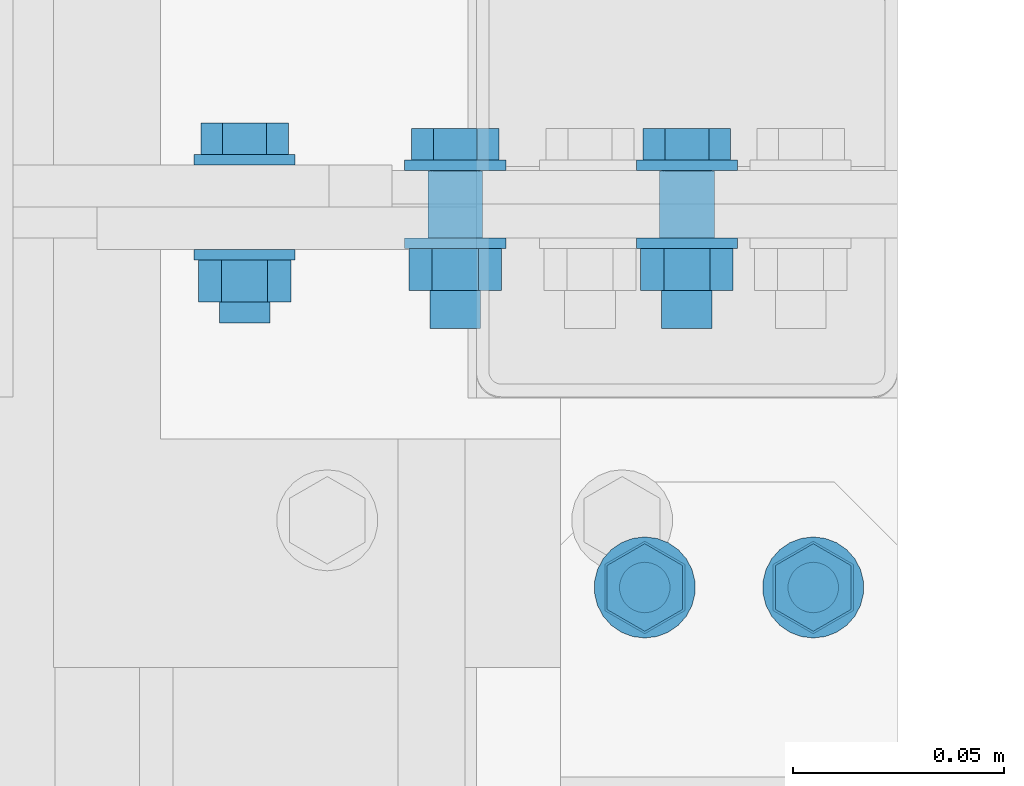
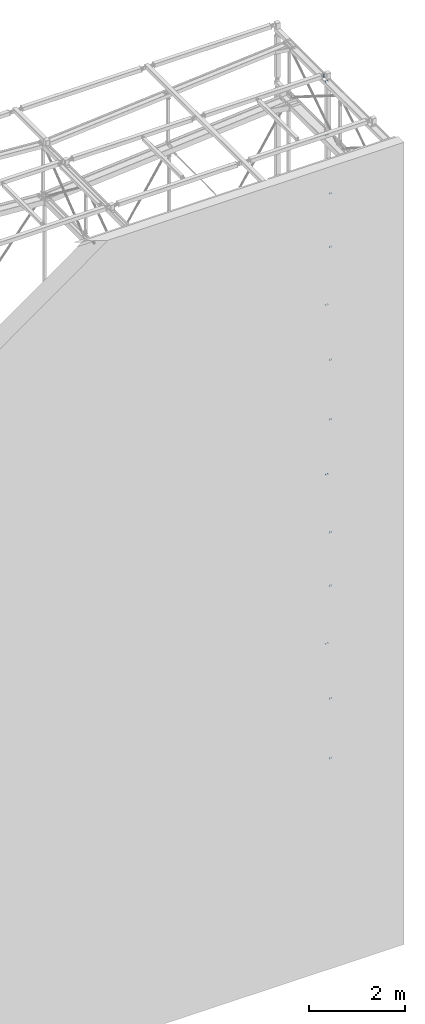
# One storey, part 261 of 271: 14 mechanical fasteners, 14 elements without a shape of their own.
"""IFC2X3 building model written with IfcOpenShell, lengths in millimetres."""

from ifc_helpers import new_model, si_unit, frame, frame_2d, origin_with_axes, origin_2d_with_axis, place, context, subcontext, project, spatial, polyline, circle_curve, parameter, trimmed, segment, composite_curve, circle, outline, extrude, source, transform, mapped, material, type_object, element, aggregate, save


model = new_model("IFC2X3")

# Units and contexts
model_context = context("Model", 3, precision=1e-05, world=origin_with_axes())
body_context = subcontext(model_context, "Body", "Model", "MODEL_VIEW")
ifc_project = project(units=[si_unit("LENGTHUNIT", "METRE", prefix="MILLI"), si_unit("AREAUNIT", "SQUARE_METRE"), si_unit("VOLUMEUNIT", "CUBIC_METRE"), si_unit("MASSUNIT", "GRAM", prefix="KILO"), si_unit("TIMEUNIT", "SECOND"), si_unit("PLANEANGLEUNIT", "RADIAN"), si_unit("SOLIDANGLEUNIT", "STERADIAN"), si_unit("THERMODYNAMICTEMPERATUREUNIT", "DEGREE_CELSIUS"), si_unit("LUMINOUSINTENSITYUNIT", "LUMEN")], contexts=[model_context])

# Site, building, storey
site_placement = place(None, origin_with_axes())
site = spatial("IfcSite", under=ifc_project, at=site_placement, Name="Undefined", CompositionType="ELEMENT")
building_placement = place(site_placement, origin_with_axes())
building = spatial("IfcBuilding", under=site, at=building_placement, Name="Undefined", CompositionType="ELEMENT")
storey_placement = place(building_placement, origin_with_axes())
storey = spatial("IfcBuildingStorey", under=building, at=storey_placement, Name="Undefined", CompositionType="ELEMENT", Elevation=0.0)

# Assembly, mechanical fastener
assembly_1_placement = place(storey_placement, origin_with_axes())
assembly_1 = element("IfcElementAssembly", 1, at=assembly_1_placement, inside=storey, AssemblyPlace="NOTDEFINED", PredefinedType="RIGID_FRAME")
ifc_material = material(Name="Undefined")
mechanical_fastener_type = type_object("IfcMechanicalFastenerType", Name="Bolt assembly")
shared_shape_1 = source(origin_with_axes(), body_context, "Body", "SweptSolid", [
    extrude(circle(Radius=6.5, at=origin_2d_with_axis()), frame((0.0, -0.099864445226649, 0.0), z_axis=(0.0, 1.0, 0.0), x_axis=(1.0, 0.0, 0.0)), (0.0, 0.0, 1.0), 8.1),
    extrude(circle(Radius=6.5, at=origin_2d_with_axis()), frame((0.0, -7.90000000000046, 0.0), z_axis=(0.0, 1.0, 0.0), x_axis=(1.0, 0.0, 0.0)), (0.0, 0.0, 1.0), 8.0),
    extrude(outline(polyline([(10.39230484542, 0.0), (5.19615242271, 9.00000000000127), (-5.19615242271, 9.00000000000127), (-10.39230484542, 0.0), (-5.19615242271, -9.00000000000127), (5.19615242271, -9.00000000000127), (10.39230484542, 0.0)])), frame((0.0, -18.0000000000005, 0.0), z_axis=(0.0, 1.0, 0.0), x_axis=(1.0, 0.0, 0.0)), (0.0, 0.0, 1.0), 7.5),
    extrude(circle(Radius=6.0, at=origin_2d_with_axis()), frame((0.0, -10.5000000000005, 0.0), z_axis=(0.0, 1.0, 0.0), x_axis=(1.0, 0.0, 0.0)), (0.0, 0.0, 1.0), 40.0),
    extrude(circle(Radius=12.0, at=origin_2d_with_axis()), frame((0.0, -10.5000000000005, 0.0), z_axis=(0.0, 1.0, 0.0), x_axis=(1.0, 0.0, 0.0)), (0.0, 0.0, 1.0), 2.5),
    extrude(circle(Radius=12.0, at=origin_2d_with_axis()), frame((0.0, 8.00013555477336, 0.0), z_axis=(0.0, 1.0, 0.0), x_axis=(1.0, 0.0, 0.0)), (0.0, 0.0, 1.0), 2.5),
    extrude(outline(polyline([(10.96965511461, 0.0), (5.484827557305, 9.50000000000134), (-5.484827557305, 9.50000000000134), (-10.96965511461, 0.0), (-5.484827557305, -9.50000000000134), (5.484827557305, -9.50000000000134), (10.96965511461, 0.0)])), frame((0.0, 10.5001355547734, 0.0), z_axis=(0.0, 1.0, 0.0), x_axis=(1.0, 0.0, 0.0)), (0.0, 0.0, 1.0), 10.0),
])
mechanical_fastener_1_placement = place(assembly_1_placement, frame((12658.3756870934, 2795.05225536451, 19978.8499999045), z_axis=(0.0, 0.0, 1.0), x_axis=(-1.0, 0.0, 1.38777878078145e-17)))
mechanical_fastener_1 = element("IfcMechanicalFastener", 2, at=mechanical_fastener_1_placement, type_object=mechanical_fastener_type, material=ifc_material, Name="Bolt assembly", NominalDiameter=12.0, NominalLength=40.0, context=body_context, shape_type="MappedRepresentation", body=[
    mapped(shared_shape_1, transform((0.0, 0.0, 0.0))),
    mapped(shared_shape_1, transform((55.0, 0.0, 0.0))),
])
aggregate(assembly_1, [mechanical_fastener_1])

assembly_2_placement = place(storey_placement, origin_with_axes())
assembly_2 = element("IfcElementAssembly", 3, at=assembly_2_placement, inside=storey, AssemblyPlace="NOTDEFINED", PredefinedType="RIGID_FRAME")
shared_shape_2 = source(origin_with_axes(), body_context, "Body", "SweptSolid", [
    extrude(circle(Radius=6.5, at=origin_2d_with_axis()), frame((0.0, -5.1, 0.0), z_axis=(0.0, 1.0, 0.0), x_axis=(1.0, 0.0, 0.0)), (0.0, 0.0, 1.0), 10.1),
    extrude(circle(Radius=6.5, at=origin_2d_with_axis()), frame((0.0, -14.9000000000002, 0.0), z_axis=(0.0, 1.0, 0.0), x_axis=(1.0, 0.0, 0.0)), (0.0, 0.0, 1.0), 10.0),
    extrude(outline(polyline([(10.39230484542, 0.0), (5.19615242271, 9.00000000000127), (-5.19615242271, 9.00000000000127), (-10.39230484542, 0.0), (-5.19615242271, -9.00000000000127), (5.19615242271, -9.00000000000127), (10.39230484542, 0.0)])), frame((0.0, -25.0000000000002, 0.0), z_axis=(0.0, 1.0, 0.0), x_axis=(1.0, 0.0, 0.0)), (0.0, 0.0, 1.0), 7.5),
    extrude(circle(Radius=6.0, at=origin_2d_with_axis()), frame((0.0, -17.5000000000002, 0.0), z_axis=(0.0, 1.0, 0.0), x_axis=(1.0, 0.0, 0.0)), (0.0, 0.0, 1.0), 40.0),
    extrude(circle(Radius=12.0, at=origin_2d_with_axis()), frame((0.0, -17.5000000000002, 0.0), z_axis=(0.0, 1.0, 0.0), x_axis=(1.0, 0.0, 0.0)), (0.0, 0.0, 1.0), 2.5),
    extrude(circle(Radius=12.0, at=origin_2d_with_axis()), frame((0.0, 5.00000000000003, 0.0), z_axis=(0.0, 1.0, 0.0), x_axis=(1.0, 0.0, 0.0)), (0.0, 0.0, 1.0), 2.5),
    extrude(outline(polyline([(10.96965511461, 0.0), (5.484827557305, 9.50000000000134), (-5.484827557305, 9.50000000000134), (-10.96965511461, 0.0), (-5.484827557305, -9.50000000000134), (5.484827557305, -9.50000000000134), (10.96965511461, 0.0)])), frame((0.0, 7.50000000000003, 0.0), z_axis=(0.0, 1.0, 0.0), x_axis=(1.0, 0.0, 0.0)), (0.0, 0.0, 1.0), 10.0),
])
mechanical_fastener_2_placement = place(assembly_2_placement, frame((12668.3756870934, 2704.05211980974, 7164.34999990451), z_axis=(-1.0, 0.0, 1.38777878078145e-17), x_axis=(0.0, -1.0, 0.0)))
mechanical_fastener_2 = element("IfcMechanicalFastener", 4, at=mechanical_fastener_2_placement, type_object=mechanical_fastener_type, material=ifc_material, Name="Bolt assembly", NominalDiameter=12.0, NominalLength=40.0, context=body_context, shape_type="MappedRepresentation", body=[
    mapped(shared_shape_2, transform((0.0, 0.0, -20.0))),
    mapped(shared_shape_2, transform((0.0, 0.0, 20.0))),
])
aggregate(assembly_2, [mechanical_fastener_2])

assembly_3_placement = place(storey_placement, origin_with_axes())
assembly_3 = element("IfcElementAssembly", 5, at=assembly_3_placement, inside=storey, AssemblyPlace="NOTDEFINED", PredefinedType="RIGID_FRAME")
mechanical_fastener_3_placement = place(assembly_3_placement, frame((12668.3756870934, 2704.05211980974, 8524.34999990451), z_axis=(1.0, 0.0, 0.0), x_axis=(0.0, -1.0, 0.0)))
mechanical_fastener_3 = element("IfcMechanicalFastener", 6, at=mechanical_fastener_3_placement, type_object=mechanical_fastener_type, material=ifc_material, Name="Bolt assembly", NominalDiameter=12.0, NominalLength=40.0, context=body_context, shape_type="MappedRepresentation", body=[
    mapped(shared_shape_2, transform((0.0, 0.0, -20.0))),
    mapped(shared_shape_2, transform((0.0, 0.0, 20.0))),
])
aggregate(assembly_3, [mechanical_fastener_3])

assembly_4_placement = place(storey_placement, origin_with_axes())
assembly_4 = element("IfcElementAssembly", 7, at=assembly_4_placement, inside=storey, AssemblyPlace="NOTDEFINED", PredefinedType="RIGID_FRAME")
mechanical_fastener_4_placement = place(assembly_4_placement, frame((12668.3756870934, 2704.05211980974, 15804.3499999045), z_axis=(-1.0, 0.0, 1.38777878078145e-17), x_axis=(0.0, -1.0, 0.0)))
mechanical_fastener_4 = element("IfcMechanicalFastener", 8, at=mechanical_fastener_4_placement, type_object=mechanical_fastener_type, material=ifc_material, Name="Bolt assembly", NominalDiameter=12.0, NominalLength=40.0, context=body_context, shape_type="MappedRepresentation", body=[
    mapped(shared_shape_2, transform((0.0, 0.0, -20.0))),
    mapped(shared_shape_2, transform((0.0, 0.0, 20.0))),
])
aggregate(assembly_4, [mechanical_fastener_4])

assembly_5_placement = place(storey_placement, origin_with_axes())
assembly_5 = element("IfcElementAssembly", 9, at=assembly_5_placement, inside=storey, AssemblyPlace="NOTDEFINED", PredefinedType="RIGID_FRAME")
mechanical_fastener_5_placement = place(assembly_5_placement, frame((12668.3756870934, 2704.05211980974, 17164.3499999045), z_axis=(1.0, 0.0, 0.0), x_axis=(0.0, -1.0, 0.0)))
mechanical_fastener_5 = element("IfcMechanicalFastener", 10, at=mechanical_fastener_5_placement, type_object=mechanical_fastener_type, material=ifc_material, Name="Bolt assembly", NominalDiameter=12.0, NominalLength=40.0, context=body_context, shape_type="MappedRepresentation", body=[
    mapped(shared_shape_2, transform((0.0, 0.0, -20.0))),
    mapped(shared_shape_2, transform((0.0, 0.0, 20.0))),
])
aggregate(assembly_5, [mechanical_fastener_5])

assembly_6_placement = place(storey_placement, origin_with_axes())
assembly_6 = element("IfcElementAssembly", 11, at=assembly_6_placement, inside=storey, AssemblyPlace="NOTDEFINED", PredefinedType="RIGID_FRAME")
mechanical_fastener_6_placement = place(assembly_6_placement, frame((12668.3756870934, 2704.05211980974, 2761.84999990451), z_axis=(1.0, 0.0, 0.0), x_axis=(0.0, -1.0, 0.0)))
mechanical_fastener_6 = element("IfcMechanicalFastener", 12, at=mechanical_fastener_6_placement, type_object=mechanical_fastener_type, material=ifc_material, Name="Bolt assembly", NominalDiameter=12.0, NominalLength=40.0, context=body_context, shape_type="MappedRepresentation", body=[
    mapped(shared_shape_2, transform((0.0, 0.0, -20.0))),
    mapped(shared_shape_2, transform((0.0, 0.0, 20.0))),
])
aggregate(assembly_6, [mechanical_fastener_6])

assembly_7_placement = place(storey_placement, origin_with_axes())
assembly_7 = element("IfcElementAssembly", 13, at=assembly_7_placement, inside=storey, AssemblyPlace="NOTDEFINED", PredefinedType="RIGID_FRAME")
mechanical_fastener_7_placement = place(assembly_7_placement, frame((12668.3756870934, 2704.05211980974, 4286.84999990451), z_axis=(-1.0, 0.0, 1.38777878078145e-17), x_axis=(0.0, -1.0, 0.0)))
mechanical_fastener_7 = element("IfcMechanicalFastener", 14, at=mechanical_fastener_7_placement, type_object=mechanical_fastener_type, material=ifc_material, Name="Bolt assembly", NominalDiameter=12.0, NominalLength=40.0, context=body_context, shape_type="MappedRepresentation", body=[
    mapped(shared_shape_2, transform((0.0, 0.0, -20.0))),
    mapped(shared_shape_2, transform((0.0, 0.0, 20.0))),
])
aggregate(assembly_7, [mechanical_fastener_7])

assembly_8_placement = place(storey_placement, origin_with_axes())
assembly_8 = element("IfcElementAssembly", 15, at=assembly_8_placement, inside=storey, AssemblyPlace="NOTDEFINED", PredefinedType="RIGID_FRAME")
mechanical_fastener_8_placement = place(assembly_8_placement, frame((12668.3756870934, 2704.05211980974, 11401.8499999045), z_axis=(1.0, 0.0, 0.0), x_axis=(0.0, -1.0, 0.0)))
mechanical_fastener_8 = element("IfcMechanicalFastener", 16, at=mechanical_fastener_8_placement, type_object=mechanical_fastener_type, material=ifc_material, Name="Bolt assembly", NominalDiameter=12.0, NominalLength=40.0, context=body_context, shape_type="MappedRepresentation", body=[
    mapped(shared_shape_2, transform((0.0, 0.0, -20.0))),
    mapped(shared_shape_2, transform((0.0, 0.0, 20.0))),
])
aggregate(assembly_8, [mechanical_fastener_8])

assembly_9_placement = place(storey_placement, origin_with_axes())
assembly_9 = element("IfcElementAssembly", 17, at=assembly_9_placement, inside=storey, AssemblyPlace="NOTDEFINED", PredefinedType="RIGID_FRAME")
mechanical_fastener_9_placement = place(assembly_9_placement, frame((12668.3756870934, 2704.05211980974, 12926.8499999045), z_axis=(-1.0, 0.0, 1.38777878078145e-17), x_axis=(0.0, -1.0, 0.0)))
mechanical_fastener_9 = element("IfcMechanicalFastener", 18, at=mechanical_fastener_9_placement, type_object=mechanical_fastener_type, material=ifc_material, Name="Bolt assembly", NominalDiameter=12.0, NominalLength=40.0, context=body_context, shape_type="MappedRepresentation", body=[
    mapped(shared_shape_2, transform((0.0, 0.0, -20.0))),
    mapped(shared_shape_2, transform((0.0, 0.0, 20.0))),
])
aggregate(assembly_9, [mechanical_fastener_9])

assembly_10_placement = place(storey_placement, origin_with_axes())
assembly_10 = element("IfcElementAssembly", 19, at=assembly_10_placement, inside=storey, AssemblyPlace="NOTDEFINED", PredefinedType="RIGID_FRAME")
shared_shape_3 = source(origin_with_axes(), body_context, "Body", "SweptSolid", [
    extrude(circle(Radius=6.5, at=origin_2d_with_axis()), frame((0.0, 7.89999999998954, 0.0), z_axis=(0.0, 1.0, 0.0), x_axis=(1.0, 0.0, 0.0)), (0.0, 0.0, 1.0), 8.1),
    extrude(circle(Radius=6.5, at=origin_2d_with_axis()), frame((0.0, 0.0999999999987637, 0.0), z_axis=(0.0, 1.0, 0.0), x_axis=(1.0, 0.0, 0.0)), (0.0, 0.0, 1.0), 8.0),
    extrude(outline(polyline([(10.39230484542, 0.0), (5.19615242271, 9.00000000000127), (-5.19615242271, 9.00000000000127), (-10.39230484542, 0.0), (-5.19615242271, -9.00000000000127), (5.19615242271, -9.00000000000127), (10.39230484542, 0.0)])), frame((0.0, -10.0, 0.0), z_axis=(0.0, 1.0, 0.0), x_axis=(1.0, 0.0, 0.0)), (0.0, 0.0, 1.0), 7.5),
    extrude(circle(Radius=6.0, at=origin_2d_with_axis()), frame((0.0, -2.50000000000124, 0.0), z_axis=(0.0, 1.0, 0.0), x_axis=(1.0, 0.0, 0.0)), (0.0, 0.0, 1.0), 40.0),
    extrude(circle(Radius=12.0, at=origin_2d_with_axis()), frame((0.0, -2.50000000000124, 0.0), z_axis=(0.0, 1.0, 0.0), x_axis=(1.0, 0.0, 0.0)), (0.0, 0.0, 1.0), 2.5),
    extrude(circle(Radius=12.0, at=origin_2d_with_axis()), frame((0.0, 16.0, 0.0), z_axis=(0.0, 1.0, 0.0), x_axis=(1.0, 0.0, 0.0)), (0.0, 0.0, 1.0), 2.5),
    extrude(outline(polyline([(10.96965511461, 0.0), (5.484827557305, 9.50000000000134), (-5.484827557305, 9.50000000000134), (-10.96965511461, 0.0), (-5.484827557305, -9.50000000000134), (5.484827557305, -9.50000000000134), (10.96965511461, 0.0)])), frame((0.0, 18.5, 0.0), z_axis=(0.0, 1.0, 0.0), x_axis=(1.0, 0.0, 0.0)), (0.0, 0.0, 1.0), 10.0),
])
mechanical_fastener_10_placement = place(assembly_10_placement, frame((12658.3756870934, 2803.05211980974, 18605.8499999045), z_axis=(0.0, 0.0, 1.0), x_axis=(-1.0, 0.0, 1.38777878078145e-17)))
mechanical_fastener_10 = element("IfcMechanicalFastener", 20, at=mechanical_fastener_10_placement, type_object=mechanical_fastener_type, material=ifc_material, Name="Bolt assembly", NominalDiameter=12.0, NominalLength=40.0, context=body_context, shape_type="MappedRepresentation", body=[
    mapped(shared_shape_3, transform((0.0, 0.0, 0.0))),
    mapped(shared_shape_3, transform((55.0, 0.0, 0.0))),
])
aggregate(assembly_10, [mechanical_fastener_10])

assembly_11_placement = place(storey_placement, origin_with_axes())
assembly_11 = element("IfcElementAssembly", 21, at=assembly_11_placement, inside=storey, AssemblyPlace="NOTDEFINED", PredefinedType="RIGID_FRAME")
mechanical_fastener_11_placement = place(assembly_11_placement, frame((12658.3756870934, 2803.05211980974, 14285.8499999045), z_axis=(0.0, 0.0, 1.0), x_axis=(-1.0, 0.0, 1.38777878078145e-17)))
mechanical_fastener_11 = element("IfcMechanicalFastener", 22, at=mechanical_fastener_11_placement, type_object=mechanical_fastener_type, material=ifc_material, Name="Bolt assembly", NominalDiameter=12.0, NominalLength=40.0, context=body_context, shape_type="MappedRepresentation", body=[
    mapped(shared_shape_3, transform((0.0, 0.0, 0.0))),
    mapped(shared_shape_3, transform((55.0, 0.0, 0.0))),
])
aggregate(assembly_11, [mechanical_fastener_11])

assembly_12_placement = place(storey_placement, origin_with_axes())
assembly_12 = element("IfcElementAssembly", 23, at=assembly_12_placement, inside=storey, AssemblyPlace="NOTDEFINED", PredefinedType="RIGID_FRAME")
mechanical_fastener_12_placement = place(assembly_12_placement, frame((12658.3756870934, 2803.05211980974, 9965.84999990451), z_axis=(0.0, 0.0, 1.0), x_axis=(-1.0, 0.0, 1.38777878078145e-17)))
mechanical_fastener_12 = element("IfcMechanicalFastener", 24, at=mechanical_fastener_12_placement, type_object=mechanical_fastener_type, material=ifc_material, Name="Bolt assembly", NominalDiameter=12.0, NominalLength=40.0, context=body_context, shape_type="MappedRepresentation", body=[
    mapped(shared_shape_3, transform((0.0, 0.0, 0.0))),
    mapped(shared_shape_3, transform((55.0, 0.0, 0.0))),
])
aggregate(assembly_12, [mechanical_fastener_12])

assembly_13_placement = place(storey_placement, origin_with_axes())
assembly_13 = element("IfcElementAssembly", 25, at=assembly_13_placement, inside=storey, AssemblyPlace="NOTDEFINED", PredefinedType="RIGID_FRAME")
mechanical_fastener_13_placement = place(assembly_13_placement, frame((12658.3756870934, 2803.05211980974, 5645.8499999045), z_axis=(0.0, 0.0, 1.0), x_axis=(-1.0, 0.0, 1.38777878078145e-17)))
mechanical_fastener_13 = element("IfcMechanicalFastener", 26, at=mechanical_fastener_13_placement, type_object=mechanical_fastener_type, material=ifc_material, Name="Bolt assembly", NominalDiameter=12.0, NominalLength=40.0, context=body_context, shape_type="MappedRepresentation", body=[
    mapped(shared_shape_3, transform((0.0, 0.0, 0.0))),
    mapped(shared_shape_3, transform((55.0, 0.0, 0.0))),
])
aggregate(assembly_13, [mechanical_fastener_13])

assembly_14_placement = place(storey_placement, origin_with_axes())
assembly_14 = element("IfcElementAssembly", 27, at=assembly_14_placement, inside=storey, AssemblyPlace="NOTDEFINED", PredefinedType="RIGID_FRAME")
shared_shape_4 = source(origin_with_axes(), body_context, "Body", "SweptSolid", [
    extrude(circle(Radius=6.5, at=origin_2d_with_axis()), frame((0.0, -5.1, 0.0), z_axis=(0.0, 1.0, 0.0), x_axis=(1.0, 0.0, 0.0)), (0.0, 0.0, 1.0), 10.1),
    extrude(outline(composite_curve([segment(polyline([(-13.5, 6.5), (13.5, 6.5)]), True, "CONTINUOUS"), segment(trimmed(circle_curve(frame_2d((13.5, 0.0), x_axis=(0.0, 1.0)), 6.5), [parameter(0.0)], [parameter(3.14159265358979)], False, "PARAMETER"), True, "CONTINUOUS"), segment(polyline([(13.5, -6.5), (-13.5, -6.5)]), True, "CONTINUOUS"), segment(trimmed(circle_curve(frame_2d((-13.5, 0.0), x_axis=(0.0, -1.0)), 6.5), [parameter(0.0)], [parameter(3.14159265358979)], False, "PARAMETER"), True, "DISCONTINUOUS")], self_intersect=False)), frame((0.0, -14.9000000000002, 0.0), z_axis=(0.0, 1.0, 0.0), x_axis=(1.0, 0.0, 0.0)), (0.0, 0.0, 1.0), 10.0),
    extrude(outline(polyline([(10.39230484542, 0.0), (5.19615242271, 9.00000000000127), (-5.19615242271, 9.00000000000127), (-10.39230484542, 0.0), (-5.19615242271, -9.00000000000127), (5.19615242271, -9.00000000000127), (10.39230484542, 0.0)])), frame((0.0, -25.0000000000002, 0.0), z_axis=(0.0, 1.0, 0.0), x_axis=(1.0, 0.0, 0.0)), (0.0, 0.0, 1.0), 7.5),
    extrude(circle(Radius=6.0, at=origin_2d_with_axis()), frame((0.0, -17.5000000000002, 0.0), z_axis=(0.0, 1.0, 0.0), x_axis=(1.0, 0.0, 0.0)), (0.0, 0.0, 1.0), 40.0),
    extrude(circle(Radius=12.0, at=origin_2d_with_axis()), frame((0.0, -17.5000000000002, 0.0), z_axis=(0.0, 1.0, 0.0), x_axis=(1.0, 0.0, 0.0)), (0.0, 0.0, 1.0), 2.5),
    extrude(circle(Radius=12.0, at=origin_2d_with_axis()), frame((0.0, 5.00000000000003, 0.0), z_axis=(0.0, 1.0, 0.0), x_axis=(1.0, 0.0, 0.0)), (0.0, 0.0, 1.0), 2.5),
    extrude(outline(polyline([(10.96965511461, 0.0), (5.484827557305, 9.50000000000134), (-5.484827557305, 9.50000000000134), (-10.96965511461, 0.0), (-5.484827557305, -9.50000000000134), (5.484827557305, -9.50000000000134), (10.96965511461, 0.0)])), frame((0.0, 7.50000000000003, 0.0), z_axis=(0.0, 1.0, 0.0), x_axis=(1.0, 0.0, 0.0)), (0.0, 0.0, 1.0), 10.0),
])
mechanical_fastener_14_placement = place(assembly_14_placement, frame((12553.3756870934, 2789.32498425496, 20154.3499999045), z_axis=(0.0, 0.0, 1.0), x_axis=(-1.0, 0.0, 1.38777878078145e-17)))
mechanical_fastener_14 = element("IfcMechanicalFastener", 28, at=mechanical_fastener_14_placement, type_object=mechanical_fastener_type, material=ifc_material, Name="Bolt assembly", NominalDiameter=12.0, NominalLength=40.0, context=body_context, shape_type="MappedRepresentation", body=[
    mapped(shared_shape_4, transform((0.0, 0.0, -25.0))),
    mapped(shared_shape_4, transform((0.0, 0.0, 25.0))),
])
aggregate(assembly_14, [mechanical_fastener_14])

save(model, "model.ifc")
